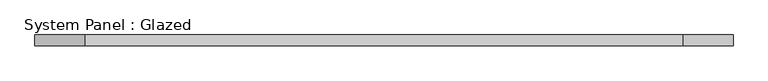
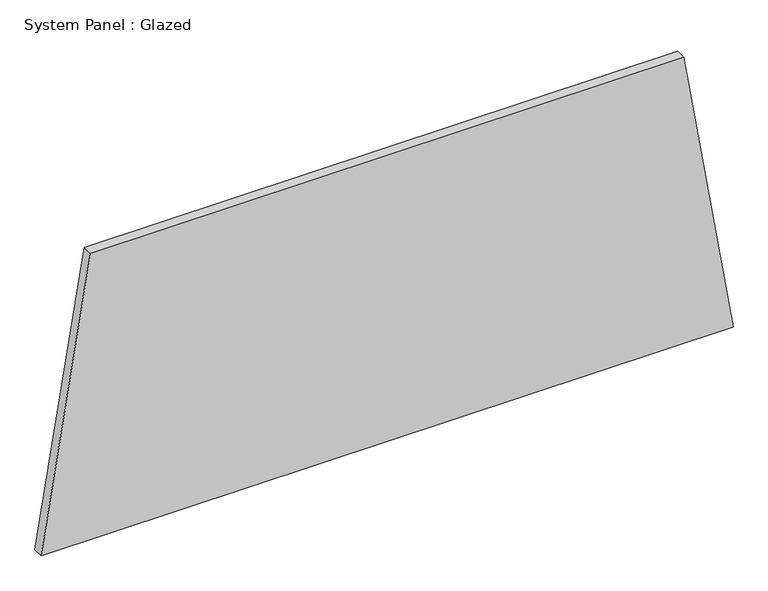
"""IFC4 building model written with IfcOpenShell, lengths in millimetres: plate geometry, System Panel : Glazed."""

from ifc_helpers import new_model, si_unit, frame, origin, place, context, project, spatial, polyline, outline, extrude, source, transform, mapped, element, save


def system_panel_glazed_0487fba4(model_context):
    return source(origin(), model_context, "Body", "SweptSolid", [
        extrude(outline(polyline([(0.0, -831.4434791), (0.0, 831.4434791), (726.6823754, 713.0418165), (726.6823754, -713.0418165), (0.0, -831.4434791)])), frame((0.0, -44.45, 0.0), z_axis=(0.0, 1.0, 0.0), x_axis=(0.0, 0.0, 1.0)), (0.0, 0.0, 1.0), 25.4),
    ])


if __name__ == "__main__":
    model = new_model("IFC4")
    model_context = context("Model", 3, world=origin())
    ifc_project = project(units=[si_unit("LENGTHUNIT", "METRE", prefix="MILLI")], contexts=[model_context])
    site = spatial("IfcSite", under=ifc_project)
    building = spatial("IfcBuilding", under=site)
    placement = place(None, origin())
    system_panel_glazed_shape = system_panel_glazed_0487fba4(model_context)
    element("IfcPlate", 1, ObjectType="System Panel : Glazed", at=placement, inside=building, context=model_context, shape_type="MappedRepresentation", body=[
        mapped(system_panel_glazed_shape, transform((0.0, 0.0, 0.0), x_axis=(1.0, 0.0, 0.0), y_axis=(0.0, 1.0, 0.0), z_axis=(0.0, 0.0, 1.0))),
    ])
    save(model, "model.ifc")
